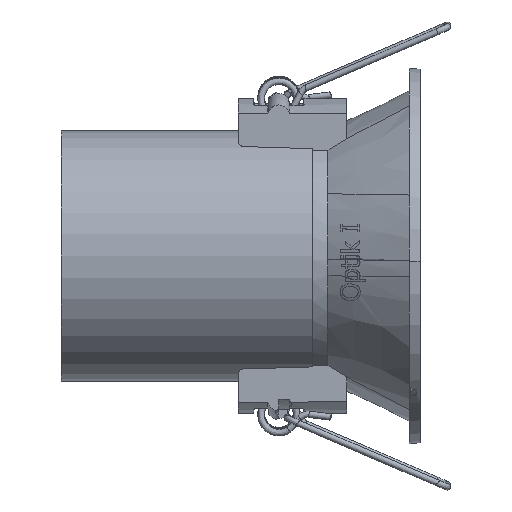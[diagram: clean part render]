
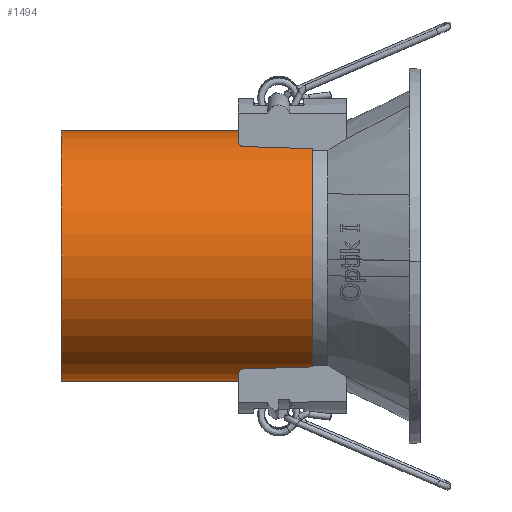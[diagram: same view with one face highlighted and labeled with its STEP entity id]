
A CAD part, left-side view. The second image highlights one B-rep face of the part: STEP entity #1494.
In plain terms, the highlighted cylindrical face has radius 23 mm (diameter 46 mm), a partial arc.
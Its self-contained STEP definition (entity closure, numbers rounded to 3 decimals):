
#346 = EDGE_CURVE ( 'NONE', #19692, #5683, #3040, .T. ) ;
#550 = DIRECTION ( 'NONE',  ( 0., 0., 1. ) ) ;
#913 = AXIS2_PLACEMENT_3D ( 'NONE', #17960, #17880, #5919 ) ;
#1229 = ORIENTED_EDGE ( 'NONE', *, *, #346, .T. ) ;
#1494 = ADVANCED_FACE ( 'NONE', ( #9670 ), #14401, .T. ) ;
#1647 = EDGE_CURVE ( 'NONE', #17422, #8251, #23279, .T. ) ;
#2328 = CIRCLE ( 'NONE', #5123, 23. ) ;
#3040 = LINE ( 'NONE', #18763, #8067 ) ;
#3317 = EDGE_CURVE ( 'NONE', #8251, #5683, #6536, .T. ) ;
#3640 = VECTOR ( 'NONE', #15037, 1000. ) ;
#5123 = AXIS2_PLACEMENT_3D ( 'NONE', #14374, #12463, #550 ) ;
#5683 = VERTEX_POINT ( 'NONE', #15059 ) ;
#5919 = DIRECTION ( 'NONE',  ( 0., 0., -1. ) ) ;
#6536 = CIRCLE ( 'NONE', #18233, 23. ) ;
#8062 = EDGE_CURVE ( 'NONE', #19692, #17422, #2328, .T. ) ;
#8067 = VECTOR ( 'NONE', #20535, 1000. ) ;
#8251 = VERTEX_POINT ( 'NONE', #21635 ) ;
#9670 = FACE_OUTER_BOUND ( 'NONE', #21724, .T. ) ;
#12463 = DIRECTION ( 'NONE',  ( 0., 1., 0. ) ) ;
#13324 = CARTESIAN_POINT ( 'NONE',  ( 0., 0., 0. ) ) ;
#14374 = CARTESIAN_POINT ( 'NONE',  ( 0., 46.2, 0. ) ) ;
#14401 = CYLINDRICAL_SURFACE ( 'NONE', #913, 23. ) ;
#14942 = CARTESIAN_POINT ( 'NONE',  ( 0., 0., 23. ) ) ;
#15037 = DIRECTION ( 'NONE',  ( 0., -1., 0. ) ) ;
#15059 = CARTESIAN_POINT ( 'NONE',  ( 0., 0., -23. ) ) ;
#16672 = CARTESIAN_POINT ( 'NONE',  ( 0., 46.2, 23. ) ) ;
#17422 = VERTEX_POINT ( 'NONE', #16672 ) ;
#17540 = DIRECTION ( 'NONE',  ( 0., -1., 0. ) ) ;
#17880 = DIRECTION ( 'NONE',  ( 0., -1., 0. ) ) ;
#17960 = CARTESIAN_POINT ( 'NONE',  ( 0., 0., 0. ) ) ;
#18233 = AXIS2_PLACEMENT_3D ( 'NONE', #13324, #17540, #19569 ) ;
#18763 = CARTESIAN_POINT ( 'NONE',  ( 0., 0., -23. ) ) ;
#19319 = ORIENTED_EDGE ( 'NONE', *, *, #1647, .F. ) ;
#19569 = DIRECTION ( 'NONE',  ( 0., 0., -1. ) ) ;
#19692 = VERTEX_POINT ( 'NONE', #24074 ) ;
#20535 = DIRECTION ( 'NONE',  ( 0., -1., 0. ) ) ;
#21635 = CARTESIAN_POINT ( 'NONE',  ( 0., 0., 23. ) ) ;
#21724 = EDGE_LOOP ( 'NONE', ( #19319, #24012, #1229, #21901 ) ) ;
#21901 = ORIENTED_EDGE ( 'NONE', *, *, #3317, .F. ) ;
#23279 = LINE ( 'NONE', #14942, #3640 ) ;
#24012 = ORIENTED_EDGE ( 'NONE', *, *, #8062, .F. ) ;
#24074 = CARTESIAN_POINT ( 'NONE',  ( 0., 46.2, -23. ) ) ;
